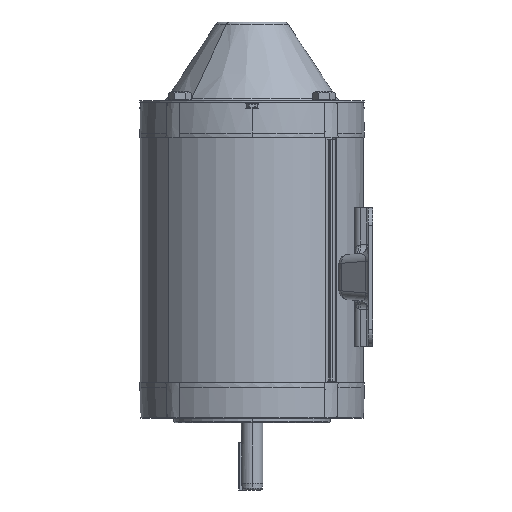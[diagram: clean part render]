
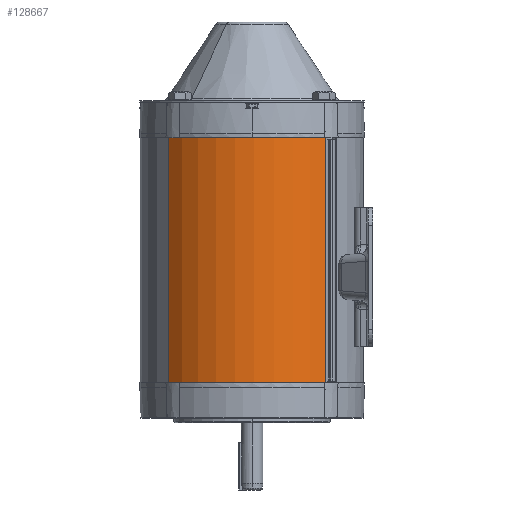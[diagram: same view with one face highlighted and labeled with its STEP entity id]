
A CAD part, left-side view. The second image highlights one B-rep face of the part: STEP entity #128667.
In plain terms, the highlighted cylindrical face has radius 81.749 mm (diameter 163.497 mm), a partial arc.
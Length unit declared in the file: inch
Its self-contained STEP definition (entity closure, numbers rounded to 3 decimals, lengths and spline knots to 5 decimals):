
#8195 = CARTESIAN_POINT ( 'NONE',  ( 0., 0., 27.28068 ) ) ;
#11605 = EDGE_CURVE ( 'NONE', #130955, #132176, #26511, .T. ) ;
#17981 = DIRECTION ( 'NONE',  ( 0., 0., -1. ) ) ;
#20384 = CARTESIAN_POINT ( 'NONE',  ( -2.41976, -2.12207, 3.08756 ) ) ;
#23182 = VECTOR ( 'NONE', #55019, 39.37008 ) ;
#26511 = LINE ( 'NONE', #44718, #23182 ) ;
#27049 = EDGE_CURVE ( 'NONE', #130955, #96872, #83890, .T. ) ;
#31931 = DIRECTION ( 'NONE',  ( 0., 0., -1. ) ) ;
#37953 = ORIENTED_EDGE ( 'NONE', *, *, #27049, .T. ) ;
#38532 = EDGE_LOOP ( 'NONE', ( #37953, #60322, #105363, #53311 ) ) ;
#43544 = AXIS2_PLACEMENT_3D ( 'NONE', #125495, #137607, #82519 ) ;
#43870 = EDGE_CURVE ( 'NONE', #59057, #132176, #93554, .T. ) ;
#44718 = CARTESIAN_POINT ( 'NONE',  ( -2.41976, -2.12207, 10.21256 ) ) ;
#50480 = CARTESIAN_POINT ( 'NONE',  ( 0., 0., 10.14756 ) ) ;
#53311 = ORIENTED_EDGE ( 'NONE', *, *, #11605, .F. ) ;
#55019 = DIRECTION ( 'NONE',  ( 0., 0., -1. ) ) ;
#59057 = VERTEX_POINT ( 'NONE', #100684 ) ;
#60322 = ORIENTED_EDGE ( 'NONE', *, *, #132034, .T. ) ;
#69436 = CARTESIAN_POINT ( 'NONE',  ( -2.41976, -2.12207, 10.14756 ) ) ;
#72021 = DIRECTION ( 'NONE',  ( 0., 0., -1. ) ) ;
#81053 = CYLINDRICAL_SURFACE ( 'NONE', #107968, 3.21845 ) ;
#82340 = DIRECTION ( 'NONE',  ( 1., 0., 0. ) ) ;
#82519 = DIRECTION ( 'NONE',  ( -1., 0., 0. ) ) ;
#83890 = CIRCLE ( 'NONE', #100726, 3.21845 ) ;
#92932 = DIRECTION ( 'NONE',  ( -0.659, 0.752, 0. ) ) ;
#93554 = CIRCLE ( 'NONE', #43544, 3.21845 ) ;
#95991 = CARTESIAN_POINT ( 'NONE',  ( -2.12207, 2.41976, 27.28068 ) ) ;
#96872 = VERTEX_POINT ( 'NONE', #124481 ) ;
#100684 = CARTESIAN_POINT ( 'NONE',  ( -2.12207, 2.41976, 3.08756 ) ) ;
#100726 = AXIS2_PLACEMENT_3D ( 'NONE', #50480, #72021, #82340 ) ;
#105363 = ORIENTED_EDGE ( 'NONE', *, *, #43870, .T. ) ;
#107968 = AXIS2_PLACEMENT_3D ( 'NONE', #8195, #17981, #92932 ) ;
#109459 = FACE_OUTER_BOUND ( 'NONE', #38532, .T. ) ;
#112075 = VECTOR ( 'NONE', #31931, 39.37008 ) ;
#118799 = LINE ( 'NONE', #95991, #112075 ) ;
#124481 = CARTESIAN_POINT ( 'NONE',  ( -2.12207, 2.41976, 10.14756 ) ) ;
#125495 = CARTESIAN_POINT ( 'NONE',  ( 0., 0., 3.08756 ) ) ;
#128667 = ADVANCED_FACE ( 'NONE', ( #109459 ), #81053, .T. ) ;
#130955 = VERTEX_POINT ( 'NONE', #69436 ) ;
#132034 = EDGE_CURVE ( 'NONE', #96872, #59057, #118799, .T. ) ;
#132176 = VERTEX_POINT ( 'NONE', #20384 ) ;
#137607 = DIRECTION ( 'NONE',  ( 0., 0., 1. ) ) ;
